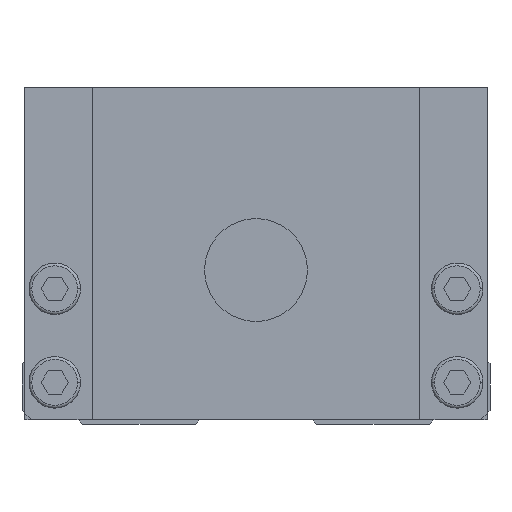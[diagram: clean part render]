
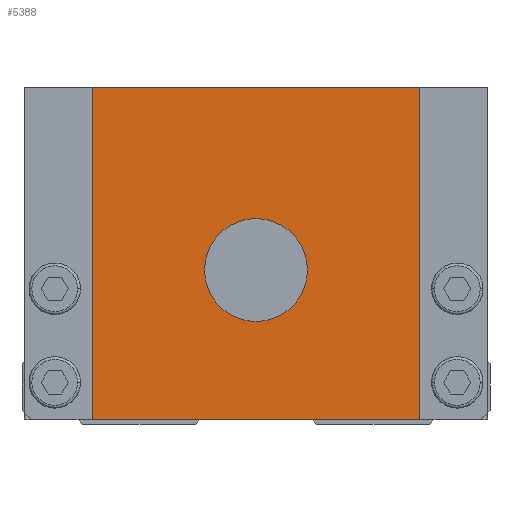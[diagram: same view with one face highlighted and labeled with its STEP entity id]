
A CAD part, front view. The second image highlights one B-rep face of the part: STEP entity #5388.
In plain terms, the highlighted planar face has unit normal (0, -1, 0).
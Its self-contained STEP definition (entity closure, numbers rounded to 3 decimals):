
#3496=VERTEX_POINT('',#9829);
#4324=EDGE_CURVE('',#6634,#7442,#10755,.T.);
#5388=ADVANCED_FACE('',(#11936,#11937),#11938,.F.);
#5402=VERTEX_POINT('',#11953);
#5454=EDGE_CURVE('',#6236,#3496,#12010,.T.);
#5712=EDGE_CURVE('',#5402,#8036,#12303,.T.);
#6236=VERTEX_POINT('',#12896);
#6634=VERTEX_POINT('',#13339);
#7442=VERTEX_POINT('',#14211);
#8036=VERTEX_POINT('',#14876);
#8372=EDGE_CURVE('',#7442,#8036,#15248,.T.);
#8568=EDGE_CURVE('',#5402,#6634,#15465,.T.);
#9122=EDGE_CURVE('',#3496,#6236,#16086,.T.);
#9829=CARTESIAN_POINT('',(5.5,0.0,16.5));
#10755=LINE('',#18499,#18500);
#11936=FACE_BOUND('',#20219,.T.);
#11937=FACE_OUTER_BOUND('',#20220,.T.);
#11938=PLANE('',#20221);
#11953=CARTESIAN_POINT('',(-17.5,0.0,36.0));
#12010=CIRCLE('',#20323,5.5);
#12303=LINE('',#20711,#20712);
#12896=CARTESIAN_POINT('',(-5.5,0.0,16.5));
#13339=CARTESIAN_POINT('',(17.5,0.0,36.0));
#14211=CARTESIAN_POINT('',(17.5,0.0,0.5));
#14876=CARTESIAN_POINT('',(-17.5,0.0,0.5));
#15248=LINE('',#24827,#24828);
#15465=LINE('',#25154,#25155);
#16086=CIRCLE('',#25998,5.5);
#18499=CARTESIAN_POINT('',(17.5,0.0,18.25));
#18500=VECTOR('',#28097,1.0);
#20219=EDGE_LOOP('',(#29370,#29371));
#20220=EDGE_LOOP('',(#29372,#29373,#29374,#29375));
#20221=AXIS2_PLACEMENT_3D('',#29376,#29377,#29378);
#20323=AXIS2_PLACEMENT_3D('',#29450,#29451,#29452);
#20711=CARTESIAN_POINT('',(-17.5,0.0,18.25));
#20712=VECTOR('',#29814,1.0);
#24827=CARTESIAN_POINT('',(0.0,0.0,0.5));
#24828=VECTOR('',#33127,1.0);
#25154=CARTESIAN_POINT('',(0.0,0.0,36.0));
#25155=VECTOR('',#33362,1.0);
#25998=AXIS2_PLACEMENT_3D('',#34087,#34088,#34089);
#28097=DIRECTION('',(0.0,0.0,-1.0));
#29370=ORIENTED_EDGE('',*,*,#9122,.T.);
#29371=ORIENTED_EDGE('',*,*,#5454,.T.);
#29372=ORIENTED_EDGE('',*,*,#5712,.T.);
#29373=ORIENTED_EDGE('',*,*,#8372,.F.);
#29374=ORIENTED_EDGE('',*,*,#4324,.F.);
#29375=ORIENTED_EDGE('',*,*,#8568,.F.);
#29376=CARTESIAN_POINT('',(0.0,0.0,18.25));
#29377=DIRECTION('',(0.0,1.0,0.0));
#29378=DIRECTION('',(0.0,0.0,1.0));
#29450=CARTESIAN_POINT('',(0.0,0.0,16.5));
#29451=DIRECTION('',(-0.0,1.0,0.0));
#29452=DIRECTION('',(1.0,0.0,0.0));
#29814=DIRECTION('',(0.0,0.0,-1.0));
#33127=DIRECTION('',(-1.0,0.0,0.0));
#33362=DIRECTION('',(1.0,0.0,0.0));
#34087=CARTESIAN_POINT('',(0.0,0.0,16.5));
#34088=DIRECTION('',(-0.0,1.0,0.0));
#34089=DIRECTION('',(1.0,0.0,0.0));
